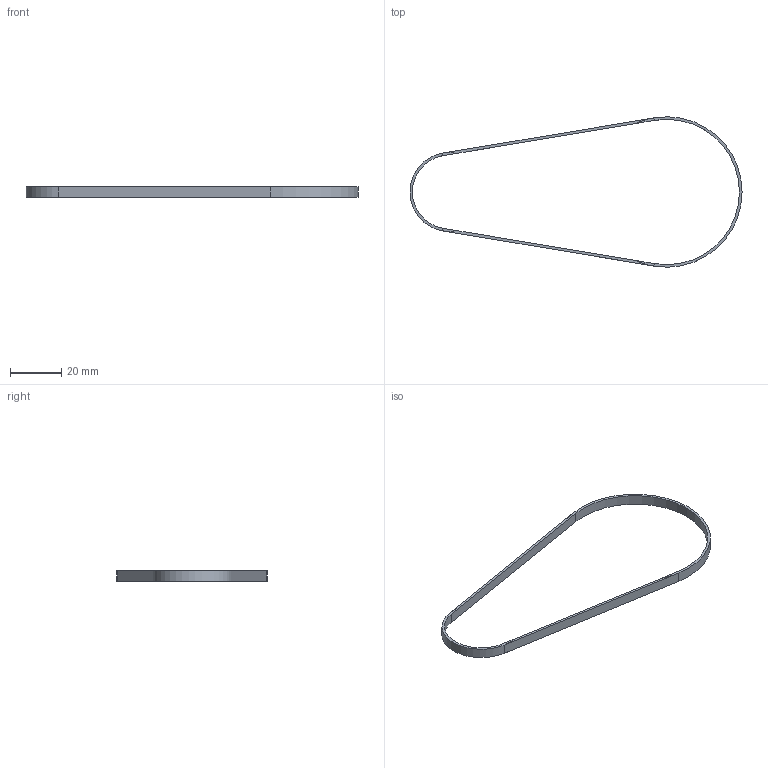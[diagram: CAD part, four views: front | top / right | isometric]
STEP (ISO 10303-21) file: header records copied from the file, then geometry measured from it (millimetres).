
FILE_DESCRIPTION(('Open CASCADE Model'),'2;1');
FILE_NAME('Open CASCADE Shape Model','2026-10-04T01:02:25',('Author'),( 'Open CASCADE'),'Open CASCADE STEP processor 8.0','Open CASCADE 8.0' ,'Unknown');
FILE_SCHEMA(('AUTOMOTIVE_DESIGN { 1 0 10303 214 1 1 1 1 }'));
Length unit declared in the file: millimetre
Products named in the file (1): Open CASCADE STEP translator 8.0 63
Bounding box: 129.75 x 58.8 x 4 mm (x, y, z)
Volume: 1239.7 mm3; surface area: 3099.1 mm2
Topology: 1 solids, 1 shells, 26 faces, 62 edges, 36 vertices
Faces by surface type: plane 20, cylinder 6
Entity records: 1590 total; most frequent: CARTESIAN_POINT 401, DIRECTION 212, ORIENTED_EDGE 124, PCURVE 124, DEFINITIONAL_REPRESENTATION 124, LINE 98, VECTOR 98, EDGE_CURVE 62
